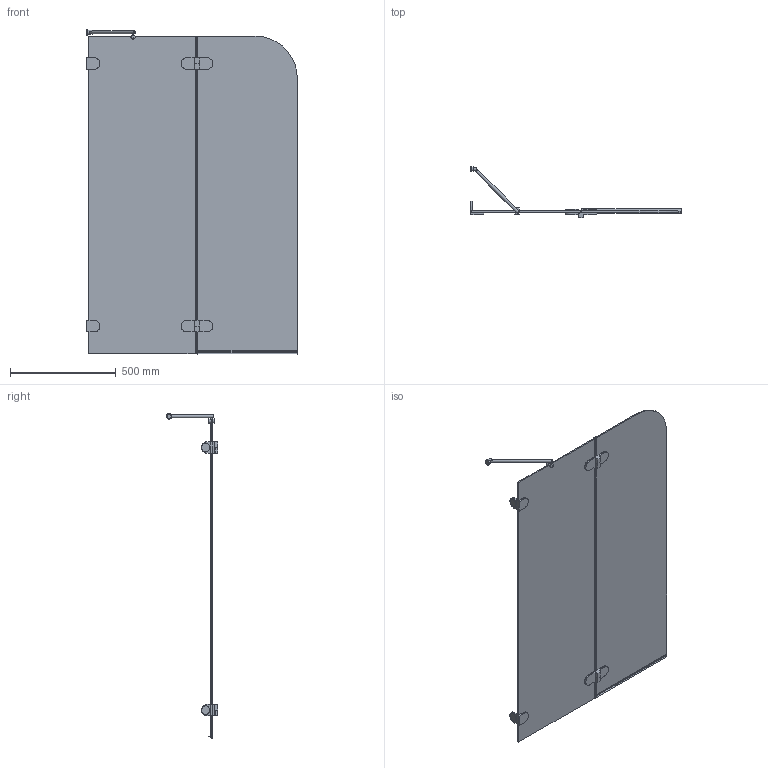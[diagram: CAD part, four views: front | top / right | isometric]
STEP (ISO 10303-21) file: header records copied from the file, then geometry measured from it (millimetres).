
FILE_DESCRIPTION(/* description */ (''),/* implementation_level */ '2;1');
FILE_NAME(/* name */ 'D:\4\17\LUX PEARL GV-002A\LUX PEARL GV-002A левая модель\LUX PEARL GV-002A ЛЕВАЯ-3D.stp',/* time_stamp */ '2017-10-12T10:51:48+03:00',/* author */ ('ChechurovS'),/* organization */ (''),/* preprocessor_version */ 'ST-DEVELOPER v15.2',/* originating_system */ 'Autodesk Inventor 2014',/* authorisation */ '');
FILE_SCHEMA (('CONFIG_CONTROL_DESIGN'));
Length unit declared in the file: millimetre
Products named in the file (1): LUX PEARL GV-002A ЛЕВАЯ-3D
Bounding box: 995 x 241.4 x 1533.9 mm (x, y, z)
Volume: 9242302.5 mm3; surface area: 3132350.7 mm2
Topology: 2 solids, 2 shells, 251 faces, 665 edges, 444 vertices
Faces by surface type: plane 161, cylinder 73, bspline 6, torus 5, sphere 4, cone 2
Full cylindrical faces by diameter (mm): 12 x1, 15 x1, 20 x2, 26 x1, 30 x2, 35 x2, 40 x2
Entity records: 8376 total; most frequent: CARTESIAN_POINT 1877, DIRECTION 1272, ORIENTED_EDGE 1264, EDGE_CURVE 632, LINE 436, VECTOR 436, VERTEX_POINT 432, AXIS2_PLACEMENT_3D 418
